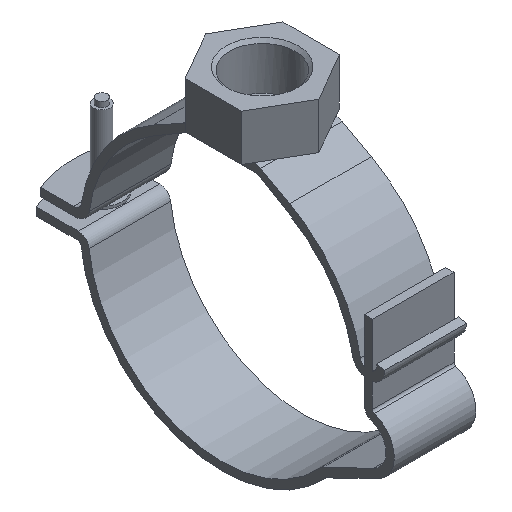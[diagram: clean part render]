
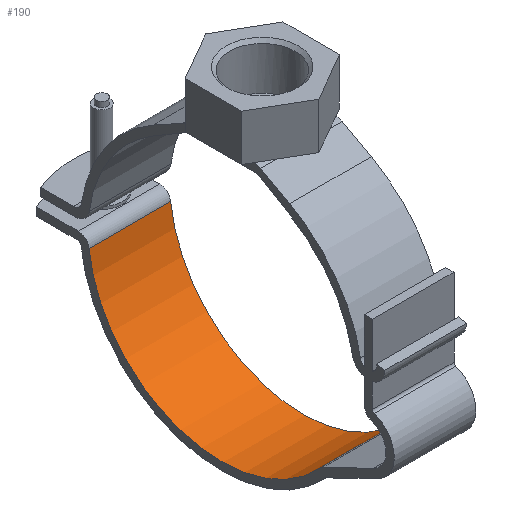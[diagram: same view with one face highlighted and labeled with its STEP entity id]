
A CAD part, isometric view. The second image highlights one B-rep face of the part: STEP entity #190.
In plain terms, the highlighted cylindrical face has radius 49 mm (diameter 98 mm), a partial arc.
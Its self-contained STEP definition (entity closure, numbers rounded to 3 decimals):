
#190 = ADVANCED_FACE( '', ( #410 ), #411, .F. );
#410 = FACE_OUTER_BOUND( '', #649, .T. );
#411 = CYLINDRICAL_SURFACE( '', #650, 49. );
#649 = EDGE_LOOP( '', ( #1183, #1184, #1185, #1186 ) );
#650 = AXIS2_PLACEMENT_3D( '', #1187, #1188, #1189 );
#1183 = ORIENTED_EDGE( '', *, *, #1579, .F. );
#1184 = ORIENTED_EDGE( '', *, *, #1600, .F. );
#1185 = ORIENTED_EDGE( '', *, *, #1524, .T. );
#1186 = ORIENTED_EDGE( '', *, *, #1615, .T. );
#1187 = CARTESIAN_POINT( '', ( 15., 0., 0. ) );
#1188 = DIRECTION( '', ( 1., 0., 0. ) );
#1189 = DIRECTION( '', ( 0., 0., 1. ) );
#1524 = EDGE_CURVE( '', #1877, #1875, #1878, .T. );
#1579 = EDGE_CURVE( '', #1958, #1960, #1961, .T. );
#1600 = EDGE_CURVE( '', #1877, #1958, #1987, .T. );
#1615 = EDGE_CURVE( '', #1875, #1960, #2003, .T. );
#1875 = VERTEX_POINT( '', #2332 );
#1877 = VERTEX_POINT( '', #2334 );
#1878 = CIRCLE( '', #2335, 49. );
#1958 = VERTEX_POINT( '', #2440 );
#1960 = VERTEX_POINT( '', #2442 );
#1961 = CIRCLE( '', #2443, 49. );
#1987 = LINE( '', #2481, #2482 );
#2003 = LINE( '', #2502, #2503 );
#2332 = CARTESIAN_POINT( '', ( 15., 48.685, -5.547 ) );
#2334 = CARTESIAN_POINT( '', ( 15., -36.118, -33.114 ) );
#2335 = AXIS2_PLACEMENT_3D( '', #2716, #2717, #2718 );
#2440 = CARTESIAN_POINT( '', ( -15., -36.118, -33.114 ) );
#2442 = CARTESIAN_POINT( '', ( -15., 48.685, -5.547 ) );
#2443 = AXIS2_PLACEMENT_3D( '', #2822, #2823, #2824 );
#2481 = CARTESIAN_POINT( '', ( 15., -36.118, -33.114 ) );
#2482 = VECTOR( '', #2840, 1000. );
#2502 = CARTESIAN_POINT( '', ( 15., 48.685, -5.547 ) );
#2503 = VECTOR( '', #2851, 1000. );
#2716 = CARTESIAN_POINT( '', ( 15., 0., 0. ) );
#2717 = DIRECTION( '', ( 1., 0., 0. ) );
#2718 = DIRECTION( '', ( 0., 0., -1. ) );
#2822 = CARTESIAN_POINT( '', ( -15., 0., 0. ) );
#2823 = DIRECTION( '', ( 1., 0., 0. ) );
#2824 = DIRECTION( '', ( 0., 0., -1. ) );
#2840 = DIRECTION( '', ( -1., 0., 0. ) );
#2851 = DIRECTION( '', ( -1., 0., 0. ) );
